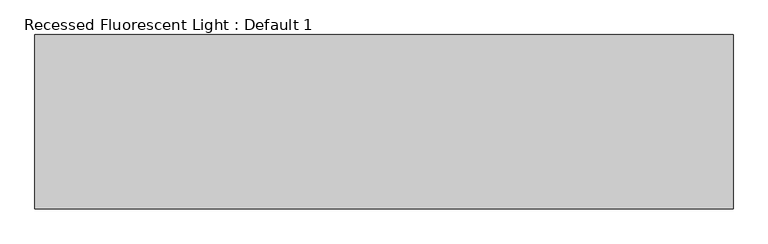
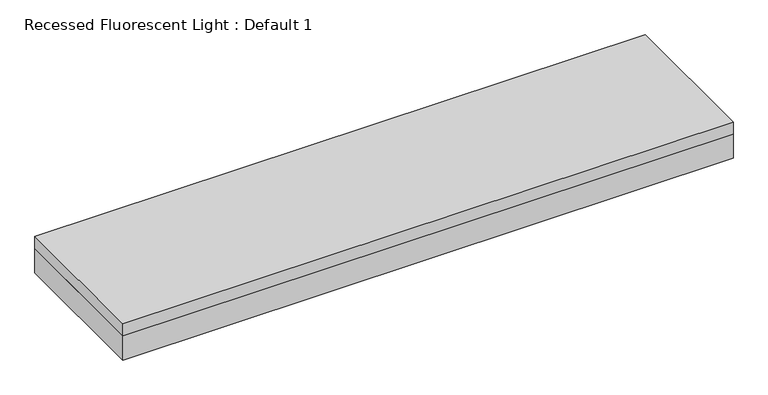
"""IFC4 building model written with IfcOpenShell, lengths in millimetres: light fixture geometry, Recessed Fluorescent Light : Default 1."""

from ifc_helpers import new_model, si_unit, frame, origin, place, context, project, spatial, polyline, outline, extrude, source, transform, mapped, element, save


def recessed_fluorescent_light_default_1_edb9868a(model_context):
    return source(origin(), model_context, "Body", "SweptSolid", [
        extrude(outline(polyline([(609.6, 152.4), (609.6, -152.4), (-609.6, -152.4), (-609.6, 152.4), (609.6, 152.4)])), frame((0.0, 0.0, 2489.2), z_axis=(0.0, 0.0, 1.0), x_axis=(1.0, 0.0, 0.0)), (0.0, 0.0, 1.0), 25.4),
        extrude(outline(polyline([(-609.6, -152.4), (-609.6, 152.4), (609.6, 152.4), (609.6, 0.0), (609.6, -152.4), (-609.6, -152.4)]), holes=[polyline([(584.2, 127.0), (-584.2, 127.0), (-584.2, -127.0), (584.2, -127.0), (584.2, 0.0), (584.2, 127.0)])]), frame((0.0, 0.0, 2438.4), z_axis=(0.0, 0.0, 1.0), x_axis=(1.0, 0.0, 0.0)), (0.0, 0.0, 1.0), 50.8),
    ])


if __name__ == "__main__":
    model = new_model("IFC4")
    model_context = context("Model", 3, world=origin())
    ifc_project = project(units=[si_unit("LENGTHUNIT", "METRE", prefix="MILLI")], contexts=[model_context])
    site = spatial("IfcSite", under=ifc_project)
    building = spatial("IfcBuilding", under=site)
    placement = place(None, origin())
    recessed_fluorescent_light_default_1_shape = recessed_fluorescent_light_default_1_edb9868a(model_context)
    element("IfcLightFixture", 1, ObjectType="Recessed Fluorescent Light : Default 1", at=placement, inside=building, context=model_context, shape_type="MappedRepresentation", body=[
        mapped(recessed_fluorescent_light_default_1_shape, transform((0.0, 0.0, 0.0), x_axis=(1.0, 0.0, 0.0), y_axis=(0.0, 1.0, 0.0), z_axis=(0.0, 0.0, 1.0))),
    ])
    save(model, "model.ifc")
